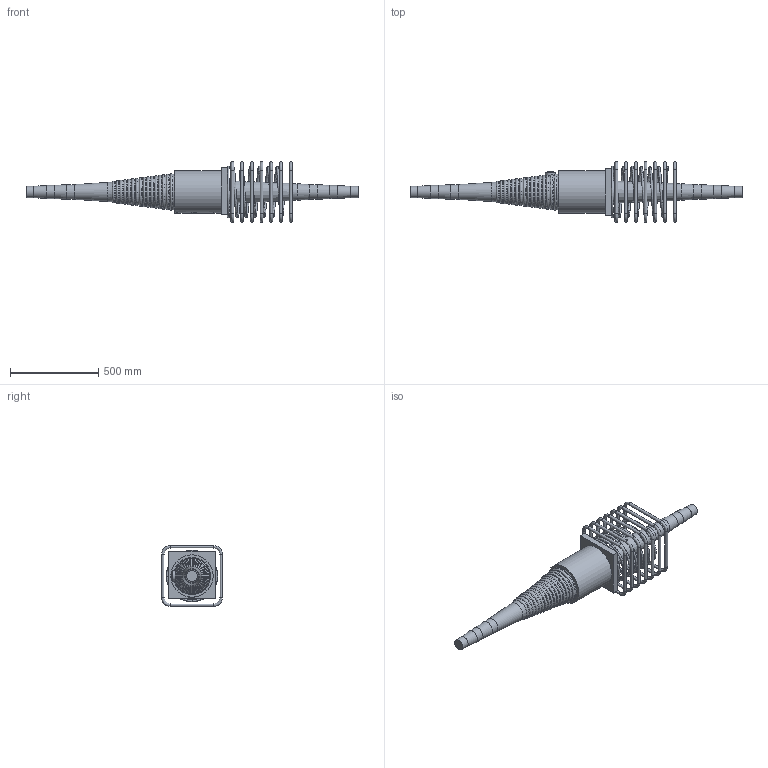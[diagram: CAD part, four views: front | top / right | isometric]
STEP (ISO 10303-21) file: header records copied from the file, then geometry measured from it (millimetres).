
FILE_DESCRIPTION(/* description */ (''),/* implementation_level */ '2;1');
FILE_NAME(/* name */ 'Z:\04 Publications\05 Give-out\BBR\6_3D_Models\BBR VT CONA CMI\BBR VT CONA CMI SP\01206\BBR VT CONA CMI SP 1206_Coupler H Assembly_CS-34,28.stp',/* time_stamp */ '2017-05-10T08:52:26+02:00',/* author */ ('IP'),/* organization */ (''),/* preprocessor_version */ 'ST-DEVELOPER v16.1',/* originating_system */ 'Autodesk Inventor 2016',/* authorisation */ '');
FILE_SCHEMA (('AUTOMOTIVE_DESIGN { 1 0 10303 214 3 1 1 }'));
Length unit declared in the file: millimetre
Products named in the file (1): BBR VT CONA CMI SP 1206_Coupler H Assembly_CS-34,28
Bounding box: 1879 x 345 x 345 mm (x, y, z)
Volume: 32526443.2 mm3; surface area: 1560460 mm2
Topology: 9 solids, 9 shells, 875 faces, 2257 edges, 1453 vertices
Faces by surface type: bspline 396, plane 264, cylinder 100, torus 87, cone 18, sphere 10
Full cylindrical faces by diameter (mm): 16 x28, 34 x1, 57 x1, 64 x2, 74 x2, 84 x2, 240 x1
Entity records: 38762 total; most frequent: CARTESIAN_POINT 20097, ORIENTED_EDGE 4246, DIRECTION 2704, EDGE_CURVE 2120, VERTEX_POINT 1449, EDGE_LOOP 1078, LINE 912, VECTOR 912
